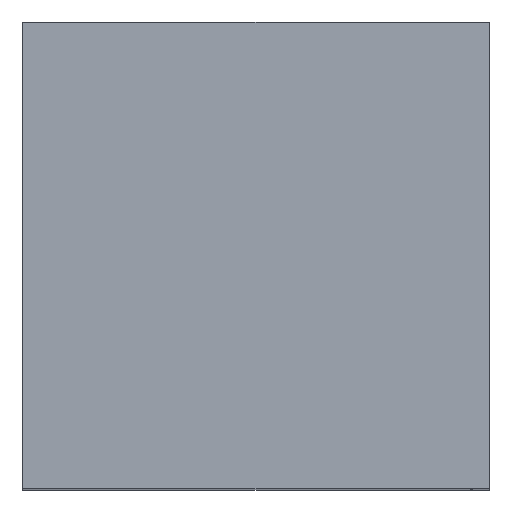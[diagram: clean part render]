
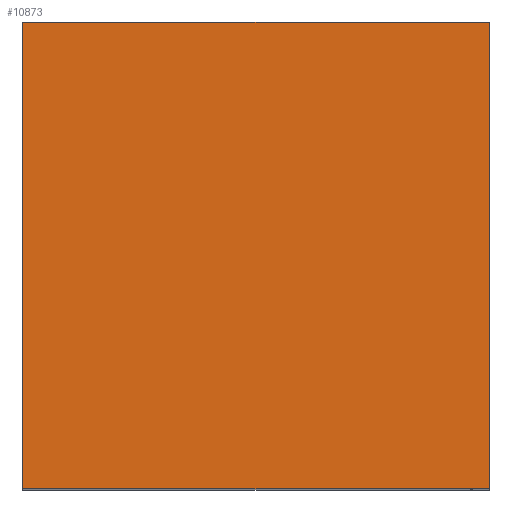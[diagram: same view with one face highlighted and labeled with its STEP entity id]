
A CAD part, top view. The second image highlights one B-rep face of the part: STEP entity #10873.
In plain terms, the highlighted planar face has unit normal (0, 0, 1).
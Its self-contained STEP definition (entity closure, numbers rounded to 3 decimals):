
#423=ORIENTED_EDGE('',*,*,#3467,.T.);
#424=ORIENTED_EDGE('',*,*,#3471,.T.);
#425=ORIENTED_EDGE('',*,*,#3474,.T.);
#426=ORIENTED_EDGE('',*,*,#3476,.T.);
#3467=EDGE_CURVE('',#5003,#5002,#6074,.T.);
#3471=EDGE_CURVE('',#5002,#5005,#6078,.T.);
#3474=EDGE_CURVE('',#5005,#5007,#6081,.T.);
#3476=EDGE_CURVE('',#5007,#5003,#6083,.T.);
#5002=VERTEX_POINT('',#16063);
#5003=VERTEX_POINT('',#16065);
#5005=VERTEX_POINT('',#16071);
#5007=VERTEX_POINT('',#16077);
#6074=LINE('',#16064,#7403);
#6078=LINE('',#16072,#7407);
#6081=LINE('',#16078,#7410);
#6083=LINE('',#16081,#7412);
#7403=VECTOR('',#12946,1000.);
#7407=VECTOR('',#12952,1000.);
#7410=VECTOR('',#12957,1000.);
#7412=VECTOR('',#12961,1000.);
#8730=EDGE_LOOP('',(#423,#424,#425,#426));
#9539=FACE_BOUND('',#8730,.T.);
#10342=PLANE('',#12003);
#10873=ADVANCED_FACE('',(#9539),#10342,.T.);
#12003=AXIS2_PLACEMENT_3D('',#16082,#12962,#12963);
#12946=DIRECTION('',(-1.,0.,0.));
#12952=DIRECTION('',(0.,-1.,0.));
#12957=DIRECTION('',(1.,0.,0.));
#12961=DIRECTION('',(0.,1.,0.));
#12962=DIRECTION('',(0.,0.,1.));
#12963=DIRECTION('',(1.,0.,0.));
#16063=CARTESIAN_POINT('',(0.,537.,19.));
#16064=CARTESIAN_POINT('',(537.,537.,19.));
#16065=CARTESIAN_POINT('',(537.,537.,19.));
#16071=CARTESIAN_POINT('',(0.,0.,19.));
#16072=CARTESIAN_POINT('',(0.,537.,19.));
#16077=CARTESIAN_POINT('',(537.,0.,19.));
#16078=CARTESIAN_POINT('',(0.,0.,19.));
#16081=CARTESIAN_POINT('',(537.,0.,19.));
#16082=CARTESIAN_POINT('',(0.,0.,19.));
